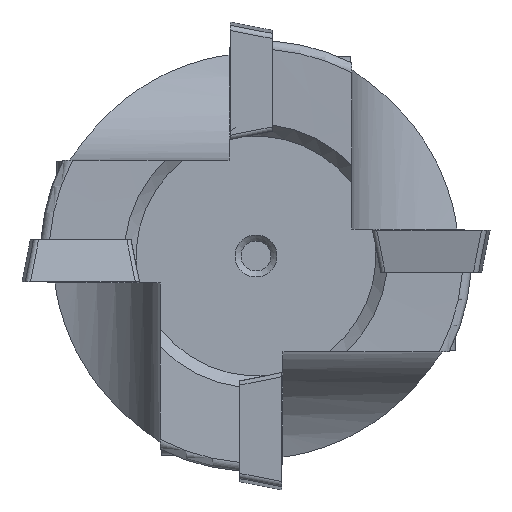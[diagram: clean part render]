
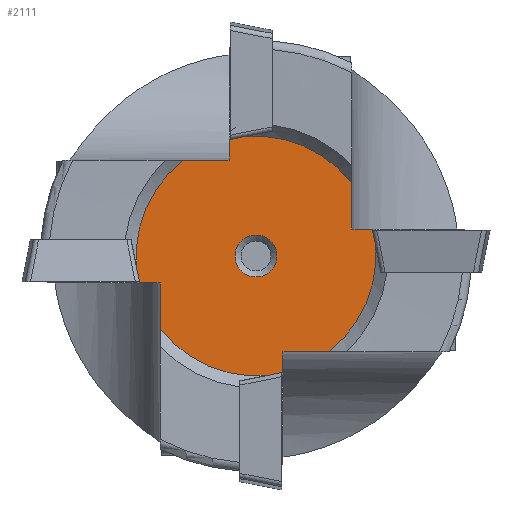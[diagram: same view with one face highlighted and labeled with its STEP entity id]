
A CAD part, left-side view. The second image highlights one B-rep face of the part: STEP entity #2111.
In plain terms, the highlighted planar face has unit normal (-1, 0, 0).
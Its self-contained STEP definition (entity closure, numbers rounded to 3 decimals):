
#119=FACE_BOUND('',#346,.T.);
#171=PLANE('',#2357);
#222=FACE_OUTER_BOUND('',#345,.T.);
#345=EDGE_LOOP('',(#1609,#1610,#1611,#1612,#1613,#1614,#1615,#1616,#1617,
#1618,#1619,#1620,#1621,#1622,#1623,#1624));
#346=EDGE_LOOP('',(#1625));
#522=LINE('',#3187,#616);
#526=LINE('',#3256,#620);
#530=LINE('',#3325,#624);
#534=LINE('',#3394,#628);
#546=LINE('',#3711,#640);
#549=LINE('',#3725,#643);
#552=LINE('',#3739,#646);
#554=LINE('',#3747,#648);
#555=LINE('',#3752,#649);
#556=LINE('',#3757,#650);
#559=LINE('',#3779,#653);
#560=LINE('',#3780,#654);
#616=VECTOR('',#2546,10.);
#620=VECTOR('',#2562,10.);
#624=VECTOR('',#2578,10.);
#628=VECTOR('',#2594,10.);
#640=VECTOR('',#2654,10.);
#643=VECTOR('',#2665,10.);
#646=VECTOR('',#2676,10.);
#648=VECTOR('',#2688,10.);
#649=VECTOR('',#2697,10.);
#650=VECTOR('',#2706,10.);
#653=VECTOR('',#2733,10.);
#654=VECTOR('',#2734,10.);
#745=CIRCLE('',#2351,1.75);
#750=CIRCLE('',#2358,10.);
#751=CIRCLE('',#2359,10.);
#752=CIRCLE('',#2360,10.);
#753=CIRCLE('',#2361,10.);
#837=VERTEX_POINT('',#3182);
#838=VERTEX_POINT('',#3186);
#849=VERTEX_POINT('',#3251);
#850=VERTEX_POINT('',#3255);
#861=VERTEX_POINT('',#3320);
#862=VERTEX_POINT('',#3324);
#873=VERTEX_POINT('',#3389);
#874=VERTEX_POINT('',#3393);
#916=VERTEX_POINT('',#3703);
#918=VERTEX_POINT('',#3709);
#920=VERTEX_POINT('',#3717);
#922=VERTEX_POINT('',#3723);
#924=VERTEX_POINT('',#3731);
#926=VERTEX_POINT('',#3737);
#928=VERTEX_POINT('',#3760);
#933=VERTEX_POINT('',#3776);
#934=VERTEX_POINT('',#3778);
#1059=EDGE_CURVE('',#838,#837,#522,.T.);
#1073=EDGE_CURVE('',#850,#849,#526,.T.);
#1087=EDGE_CURVE('',#862,#861,#530,.T.);
#1101=EDGE_CURVE('',#874,#873,#534,.T.);
#1160=EDGE_CURVE('',#916,#918,#546,.T.);
#1166=EDGE_CURVE('',#920,#922,#549,.T.);
#1172=EDGE_CURVE('',#924,#926,#552,.T.);
#1177=EDGE_CURVE('',#918,#838,#554,.T.);
#1180=EDGE_CURVE('',#922,#874,#555,.T.);
#1183=EDGE_CURVE('',#926,#862,#556,.T.);
#1184=EDGE_CURVE('',#928,#928,#745,.T.);
#1191=EDGE_CURVE('',#920,#837,#750,.T.);
#1192=EDGE_CURVE('',#924,#873,#751,.T.);
#1193=EDGE_CURVE('',#933,#861,#752,.T.);
#1194=EDGE_CURVE('',#933,#934,#559,.T.);
#1195=EDGE_CURVE('',#934,#850,#560,.T.);
#1196=EDGE_CURVE('',#916,#849,#753,.T.);
#1609=ORIENTED_EDGE('',*,*,#1160,.T.);
#1610=ORIENTED_EDGE('',*,*,#1177,.T.);
#1611=ORIENTED_EDGE('',*,*,#1059,.T.);
#1612=ORIENTED_EDGE('',*,*,#1191,.F.);
#1613=ORIENTED_EDGE('',*,*,#1166,.T.);
#1614=ORIENTED_EDGE('',*,*,#1180,.T.);
#1615=ORIENTED_EDGE('',*,*,#1101,.T.);
#1616=ORIENTED_EDGE('',*,*,#1192,.F.);
#1617=ORIENTED_EDGE('',*,*,#1172,.T.);
#1618=ORIENTED_EDGE('',*,*,#1183,.T.);
#1619=ORIENTED_EDGE('',*,*,#1087,.T.);
#1620=ORIENTED_EDGE('',*,*,#1193,.F.);
#1621=ORIENTED_EDGE('',*,*,#1194,.T.);
#1622=ORIENTED_EDGE('',*,*,#1195,.T.);
#1623=ORIENTED_EDGE('',*,*,#1073,.T.);
#1624=ORIENTED_EDGE('',*,*,#1196,.F.);
#1625=ORIENTED_EDGE('',*,*,#1184,.F.);
#2111=ADVANCED_FACE('',(#222,#119),#171,.T.);
#2351=AXIS2_PLACEMENT_3D('',#3761,#2711,#2712);
#2357=AXIS2_PLACEMENT_3D('',#3773,#2725,#2726);
#2358=AXIS2_PLACEMENT_3D('',#3774,#2727,#2728);
#2359=AXIS2_PLACEMENT_3D('',#3775,#2729,#2730);
#2360=AXIS2_PLACEMENT_3D('',#3777,#2731,#2732);
#2361=AXIS2_PLACEMENT_3D('',#3781,#2735,#2736);
#2546=DIRECTION('',(0.,0.,-1.));
#2562=DIRECTION('',(0.,1.,0.));
#2578=DIRECTION('',(0.,0.,1.));
#2594=DIRECTION('',(0.,-1.,0.));
#2654=DIRECTION('',(0.,-0.191,-0.982));
#2665=DIRECTION('',(0.,-0.982,0.191));
#2676=DIRECTION('',(0.,0.191,0.982));
#2688=DIRECTION('',(0.,-1.,0.));
#2697=DIRECTION('',(0.,0.,1.));
#2706=DIRECTION('',(0.,1.,0.));
#2711=DIRECTION('center_axis',(-1.,0.,0.));
#2712=DIRECTION('ref_axis',(0.,0.,-1.));
#2725=DIRECTION('center_axis',(-1.,0.,0.));
#2726=DIRECTION('ref_axis',(0.,0.,1.));
#2727=DIRECTION('center_axis',(1.,0.,0.));
#2728=DIRECTION('ref_axis',(0.,0.,-1.));
#2729=DIRECTION('center_axis',(1.,0.,0.));
#2730=DIRECTION('ref_axis',(0.,0.,-1.));
#2731=DIRECTION('center_axis',(1.,0.,0.));
#2732=DIRECTION('ref_axis',(0.,0.,-1.));
#2733=DIRECTION('',(0.,0.982,-0.191));
#2734=DIRECTION('',(0.,0.,-1.));
#2735=DIRECTION('center_axis',(1.,0.,0.));
#2736=DIRECTION('ref_axis',(0.,0.,-1.));
#3182=CARTESIAN_POINT('',(-148.239,8.,-6.));
#3186=CARTESIAN_POINT('',(-148.239,8.,-2.25));
#3187=CARTESIAN_POINT('',(-148.239,8.,-14.125));
#3251=CARTESIAN_POINT('',(-148.239,6.,8.));
#3255=CARTESIAN_POINT('',(-148.239,2.25,8.));
#3256=CARTESIAN_POINT('',(-148.239,9.125,8.));
#3320=CARTESIAN_POINT('',(-148.239,-8.,6.));
#3324=CARTESIAN_POINT('',(-148.239,-8.,2.25));
#3325=CARTESIAN_POINT('',(-148.239,-8.,4.125));
#3389=CARTESIAN_POINT('',(-148.239,-6.,-8.));
#3393=CARTESIAN_POINT('',(-148.239,-2.25,-8.));
#3394=CARTESIAN_POINT('',(-148.239,-9.125,-8.));
#3703=CARTESIAN_POINT('',(-148.239,9.938,-1.108));
#3709=CARTESIAN_POINT('',(-148.239,9.716,-2.25));
#3711=CARTESIAN_POINT('',(-148.239,8.95,-6.192));
#3717=CARTESIAN_POINT('',(-148.239,-1.108,-9.938));
#3723=CARTESIAN_POINT('',(-148.239,-2.25,-9.716));
#3725=CARTESIAN_POINT('',(-148.239,-0.438,-10.069));
#3731=CARTESIAN_POINT('',(-148.239,-9.938,1.108));
#3737=CARTESIAN_POINT('',(-148.239,-9.716,2.25));
#3739=CARTESIAN_POINT('',(-148.239,-10.823,-3.443));
#3747=CARTESIAN_POINT('',(-148.239,6.5,-2.25));
#3752=CARTESIAN_POINT('',(-148.239,-2.25,-11.5));
#3757=CARTESIAN_POINT('',(-148.239,-6.5,2.25));
#3760=CARTESIAN_POINT('',(-148.239,0.,1.75));
#3761=CARTESIAN_POINT('Origin',(-148.239,0.,0.));
#3773=CARTESIAN_POINT('Origin',(-148.239,0.,-10.));
#3774=CARTESIAN_POINT('Origin',(-148.239,0.,0.));
#3775=CARTESIAN_POINT('Origin',(-148.239,0.,0.));
#3776=CARTESIAN_POINT('',(-148.239,1.108,9.938));
#3777=CARTESIAN_POINT('Origin',(-148.239,0.,0.));
#3778=CARTESIAN_POINT('',(-148.239,2.25,9.716));
#3779=CARTESIAN_POINT('',(-148.239,2.311,9.705));
#3780=CARTESIAN_POINT('',(-148.239,2.25,1.5));
#3781=CARTESIAN_POINT('Origin',(-148.239,0.,0.));
